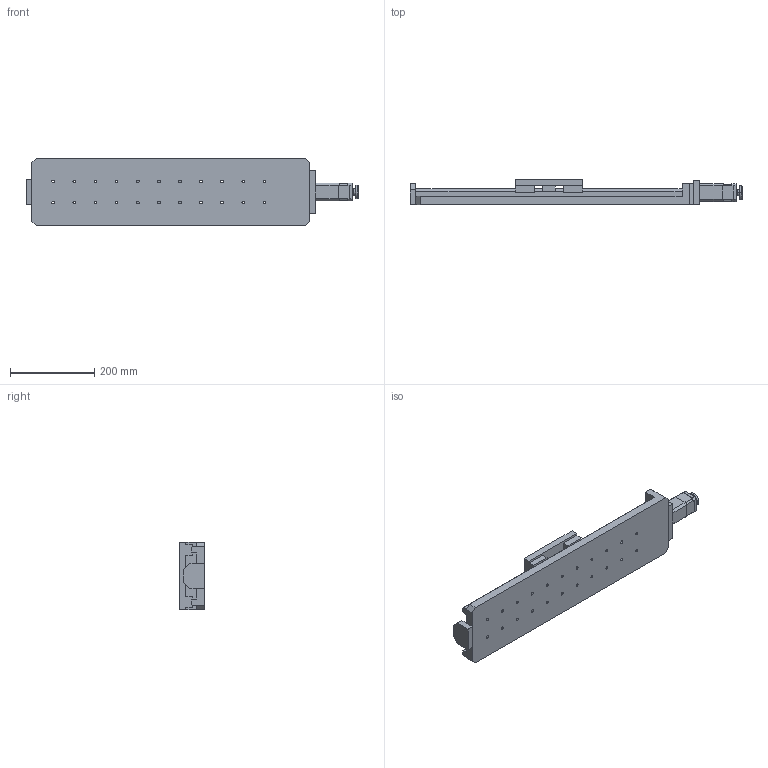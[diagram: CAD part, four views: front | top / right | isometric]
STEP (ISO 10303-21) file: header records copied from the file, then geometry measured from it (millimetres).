
FILE_DESCRIPTION (( 'STEP AP214' ), '1' );
FILE_NAME ('PT-GD140G(400).STEP', '2022-09-18T05:58:06', ( '' ), ( '' ), 'SwSTEP 2.0', 'SolidWorks 2017', '' );
FILE_SCHEMA (( 'AUTOMOTIVE_DESIGN' ));
Length unit declared in the file: millimetre
Products named in the file (3): PT-GD140G(400); 萇儂1; 菁釱
Assembly tree (2 placements, depth 2):
  PT-GD140G(400)
    菁釱
    萇儂1
Bounding box: 786 x 61 x 160 mm (x, y, z)
Volume: 3295222.5 mm3; surface area: 425270.9 mm2
Topology: 3 solids, 7 shells, 476 faces, 1214 edges, 744 vertices
Faces by surface type: cylinder 204, plane 180, cone 92
Entity records: 16112 total; most frequent: DIRECTION 2607, CARTESIAN_POINT 2499, ORIENTED_EDGE 2348, EDGE_CURVE 1174, AXIS2_PLACEMENT_3D 956, VERTEX_POINT 744, VECTOR 695, LINE 695
